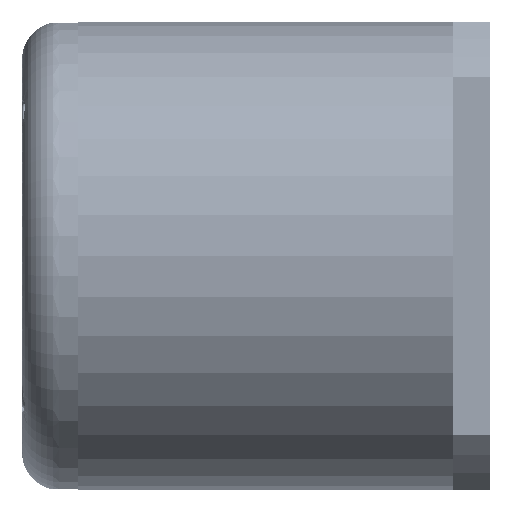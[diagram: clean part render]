
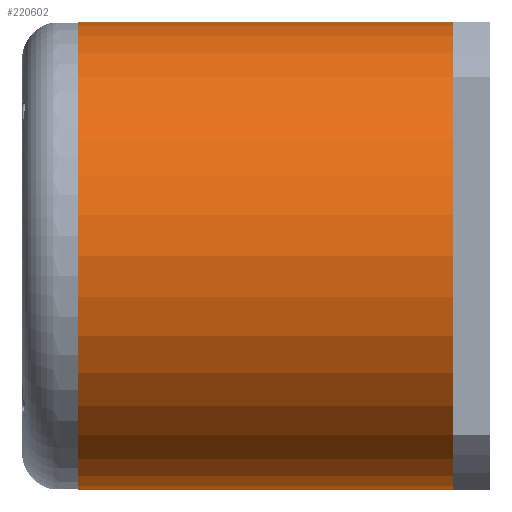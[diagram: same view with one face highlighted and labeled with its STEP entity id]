
A CAD part, left-side view. The second image highlights one B-rep face of the part: STEP entity #220602.
In plain terms, the highlighted cylindrical face has radius 50 mm (diameter 100 mm), a full revolution.
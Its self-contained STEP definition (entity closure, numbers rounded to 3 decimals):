
#15491=FACE_OUTER_BOUND('',#27999,.T.);
#27999=EDGE_LOOP('',(#154399,#154400,#154401,#154402,#154403,#154404,#154405,
#154406,#154407,#154408));
#41992=LINE('',#312725,#69286);
#41993=LINE('',#312727,#69287);
#41995=LINE('',#312731,#69289);
#69286=VECTOR('',#251499,10.);
#69287=VECTOR('',#251500,10.);
#69289=VECTOR('',#251504,50.);
#96549=CIRCLE('',#234340,50.);
#96562=CIRCLE('',#234360,50.);
#96584=CIRCLE('',#234408,50.);
#96585=CIRCLE('',#234411,50.);
#96586=CIRCLE('',#234412,50.);
#96587=CIRCLE('',#234413,50.);
#100924=VERTEX_POINT('',#312568);
#100925=VERTEX_POINT('',#312570);
#100938=VERTEX_POINT('',#312612);
#100972=VERTEX_POINT('',#312719);
#100973=VERTEX_POINT('',#312720);
#100974=VERTEX_POINT('',#312724);
#100975=VERTEX_POINT('',#312726);
#100976=VERTEX_POINT('',#312730);
#122144=EDGE_CURVE('',#100925,#100924,#96549,.T.);
#122166=EDGE_CURVE('',#100938,#100938,#96562,.T.);
#122213=EDGE_CURVE('',#100972,#100973,#96584,.T.);
#122215=EDGE_CURVE('',#100973,#100974,#41992,.T.);
#122216=EDGE_CURVE('',#100975,#100972,#41993,.T.);
#122218=EDGE_CURVE('',#100938,#100976,#41995,.T.);
#122219=EDGE_CURVE('',#100976,#100925,#96585,.T.);
#122220=EDGE_CURVE('',#100975,#100924,#96586,.T.);
#122221=EDGE_CURVE('',#100976,#100974,#96587,.T.);
#154399=ORIENTED_EDGE('',*,*,#122166,.F.);
#154400=ORIENTED_EDGE('',*,*,#122218,.T.);
#154401=ORIENTED_EDGE('',*,*,#122219,.T.);
#154402=ORIENTED_EDGE('',*,*,#122144,.T.);
#154403=ORIENTED_EDGE('',*,*,#122220,.F.);
#154404=ORIENTED_EDGE('',*,*,#122216,.T.);
#154405=ORIENTED_EDGE('',*,*,#122213,.T.);
#154406=ORIENTED_EDGE('',*,*,#122215,.T.);
#154407=ORIENTED_EDGE('',*,*,#122221,.F.);
#154408=ORIENTED_EDGE('',*,*,#122218,.F.);
#218451=CYLINDRICAL_SURFACE('',#234410,50.);
#220602=ADVANCED_FACE('',(#15491),#218451,.T.);
#234340=AXIS2_PLACEMENT_3D('',#312571,#251324,#251325);
#234360=AXIS2_PLACEMENT_3D('',#312613,#251373,#251374);
#234408=AXIS2_PLACEMENT_3D('',#312721,#251494,#251495);
#234410=AXIS2_PLACEMENT_3D('',#312729,#251502,#251503);
#234411=AXIS2_PLACEMENT_3D('',#312732,#251505,#251506);
#234412=AXIS2_PLACEMENT_3D('',#312733,#251507,#251508);
#234413=AXIS2_PLACEMENT_3D('',#312734,#251509,#251510);
#251324=DIRECTION('center_axis',(0.,0.,1.));
#251325=DIRECTION('ref_axis',(-1.,0.,0.));
#251373=DIRECTION('center_axis',(0.,0.,1.));
#251374=DIRECTION('ref_axis',(-1.,0.,0.));
#251494=DIRECTION('center_axis',(0.,0.,1.));
#251495=DIRECTION('ref_axis',(-1.,0.,0.));
#251499=DIRECTION('',(0.,0.,-1.));
#251500=DIRECTION('',(0.,0.,1.));
#251502=DIRECTION('center_axis',(0.,0.,1.));
#251503=DIRECTION('ref_axis',(-1.,0.,0.));
#251504=DIRECTION('',(0.,0.,-1.));
#251505=DIRECTION('center_axis',(0.,0.,1.));
#251506=DIRECTION('ref_axis',(-1.,0.,0.));
#251507=DIRECTION('center_axis',(0.,0.,-1.));
#251508=DIRECTION('ref_axis',(-1.,0.,0.));
#251509=DIRECTION('center_axis',(0.,0.,-1.));
#251510=DIRECTION('ref_axis',(-1.,0.,0.));
#312568=CARTESIAN_POINT('',(-50.,0.,8.));
#312570=CARTESIAN_POINT('',(0.,50.,8.));
#312571=CARTESIAN_POINT('Origin',(0.,0.,8.));
#312612=CARTESIAN_POINT('',(50.,0.,88.));
#312613=CARTESIAN_POINT('Origin',(0.,0.,88.));
#312719=CARTESIAN_POINT('',(-19.596,-46.,48.));
#312720=CARTESIAN_POINT('',(19.596,-46.,48.));
#312721=CARTESIAN_POINT('Origin',(0.,0.,48.));
#312724=CARTESIAN_POINT('',(19.596,-46.,8.));
#312725=CARTESIAN_POINT('',(19.596,-46.,8.));
#312726=CARTESIAN_POINT('',(-19.596,-46.,8.));
#312727=CARTESIAN_POINT('',(-19.596,-46.,8.));
#312729=CARTESIAN_POINT('Origin',(0.,0.,8.));
#312730=CARTESIAN_POINT('',(50.,0.,8.));
#312731=CARTESIAN_POINT('',(50.,0.,8.));
#312732=CARTESIAN_POINT('Origin',(0.,0.,8.));
#312733=CARTESIAN_POINT('Origin',(0.,0.,8.));
#312734=CARTESIAN_POINT('Origin',(0.,0.,8.));
